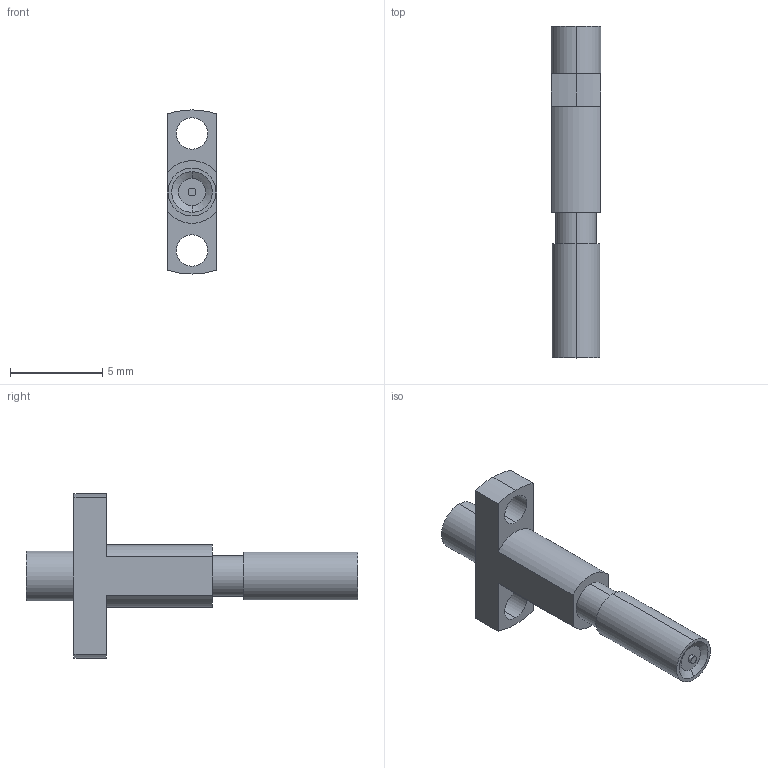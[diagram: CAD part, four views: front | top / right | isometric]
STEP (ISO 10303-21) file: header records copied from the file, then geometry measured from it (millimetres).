
FILE_DESCRIPTION (( 'STEP AP203' ), '1' );
FILE_NAME ('91145 MHF 7 RECEPTACLE HIGH CYCLE F N30 SMPM ADAPTER STEP R0 ALL.STEP', '2023-03-06T07:25:39', ( '' ), ( '' ), 'SwSTEP 2.0', 'SolidWorks 2020', '' );
FILE_SCHEMA (( 'CONFIG_CONTROL_DESIGN' ));
Length unit declared in the file: millimetre
Products named in the file (1): 91145 MHF 7 RECEPTACLE HIGH CYCLE F N30 SMPM ADAPTER STEP R0 ALL
Bounding box: 2.7 x 18 x 8.9 mm (x, y, z)
Volume: 129.7 mm3; surface area: 250.5 mm2
Topology: 1 solids, 1 shells, 41 faces, 98 edges, 63 vertices
Faces by surface type: cylinder 22, plane 13, cone 4, sphere 2
Entity records: 1267 total; most frequent: DIRECTION 232, CARTESIAN_POINT 197, ORIENTED_EDGE 188, AXIS2_PLACEMENT_3D 96, EDGE_CURVE 94, VERTEX_POINT 61, CIRCLE 54, EDGE_LOOP 51
